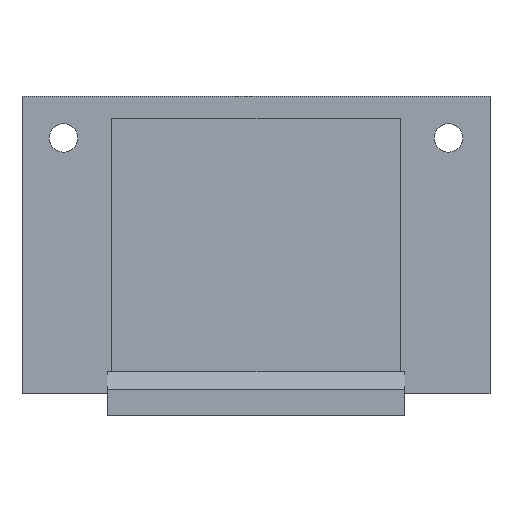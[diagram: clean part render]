
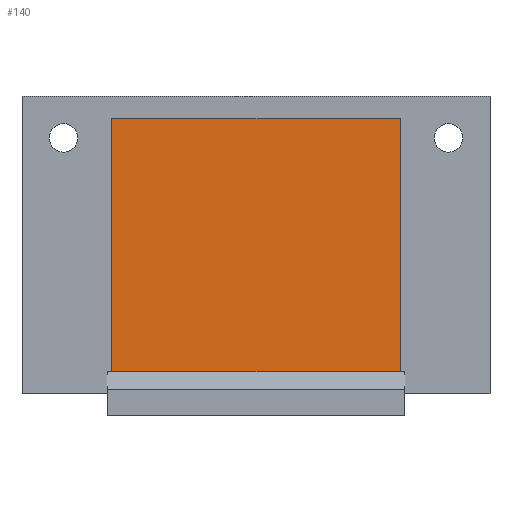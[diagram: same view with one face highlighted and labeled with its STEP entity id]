
A CAD part, top view. The second image highlights one B-rep face of the part: STEP entity #140.
In plain terms, the highlighted planar face has unit normal (0, 0, 1).
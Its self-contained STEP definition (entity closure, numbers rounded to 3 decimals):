
#20 = VECTOR ( 'NONE', #678, 1000. ) ;
#67 = CARTESIAN_POINT ( 'NONE',  ( 16.5, 14.5, 2. ) ) ;
#70 = DIRECTION ( 'NONE',  ( 1., 0., 0. ) ) ;
#72 = ORIENTED_EDGE ( 'NONE', *, *, #175, .T. ) ;
#86 = VERTEX_POINT ( 'NONE', #856 ) ;
#92 = LINE ( 'NONE', #98, #325 ) ;
#98 = CARTESIAN_POINT ( 'NONE',  ( 16.5, 14.5, 2. ) ) ;
#125 = PLANE ( 'NONE',  #848 ) ;
#140 = ADVANCED_FACE ( 'NONE', ( #467 ), #125, .T. ) ;
#159 = VERTEX_POINT ( 'NONE', #67 ) ;
#170 = ORIENTED_EDGE ( 'NONE', *, *, #812, .T. ) ;
#175 = EDGE_CURVE ( 'NONE', #530, #659, #810, .T. ) ;
#190 = DIRECTION ( 'NONE',  ( 0., 0., 1. ) ) ;
#202 = EDGE_CURVE ( 'NONE', #86, #530, #355, .T. ) ;
#294 = EDGE_LOOP ( 'NONE', ( #309, #72, #455, #170 ) ) ;
#308 = CARTESIAN_POINT ( 'NONE',  ( -16.5, -14.5, 2. ) ) ;
#309 = ORIENTED_EDGE ( 'NONE', *, *, #202, .T. ) ;
#325 = VECTOR ( 'NONE', #781, 1000. ) ;
#335 = CARTESIAN_POINT ( 'NONE',  ( 16.5, -14.5, 2. ) ) ;
#355 = LINE ( 'NONE', #550, #818 ) ;
#394 = LINE ( 'NONE', #663, #20 ) ;
#434 = VECTOR ( 'NONE', #70, 1000. ) ;
#455 = ORIENTED_EDGE ( 'NONE', *, *, #647, .T. ) ;
#467 = FACE_OUTER_BOUND ( 'NONE', #294, .T. ) ;
#479 = CARTESIAN_POINT ( 'NONE',  ( 16.5, -14.5, 2. ) ) ;
#530 = VERTEX_POINT ( 'NONE', #308 ) ;
#550 = CARTESIAN_POINT ( 'NONE',  ( -16.5, -14.5, 2. ) ) ;
#559 = DIRECTION ( 'NONE',  ( 0., -1., 0. ) ) ;
#598 = CARTESIAN_POINT ( 'NONE',  ( 0., 0., 2. ) ) ;
#647 = EDGE_CURVE ( 'NONE', #659, #159, #394, .T. ) ;
#659 = VERTEX_POINT ( 'NONE', #335 ) ;
#663 = CARTESIAN_POINT ( 'NONE',  ( 16.5, -14.5, 2. ) ) ;
#678 = DIRECTION ( 'NONE',  ( 0., 1., 0. ) ) ;
#721 = DIRECTION ( 'NONE',  ( 1., 0., 0. ) ) ;
#781 = DIRECTION ( 'NONE',  ( -1., 0., 0. ) ) ;
#810 = LINE ( 'NONE', #479, #434 ) ;
#812 = EDGE_CURVE ( 'NONE', #159, #86, #92, .T. ) ;
#818 = VECTOR ( 'NONE', #559, 1000. ) ;
#848 = AXIS2_PLACEMENT_3D ( 'NONE', #598, #190, #721 ) ;
#856 = CARTESIAN_POINT ( 'NONE',  ( -16.5, 14.5, 2. ) ) ;
